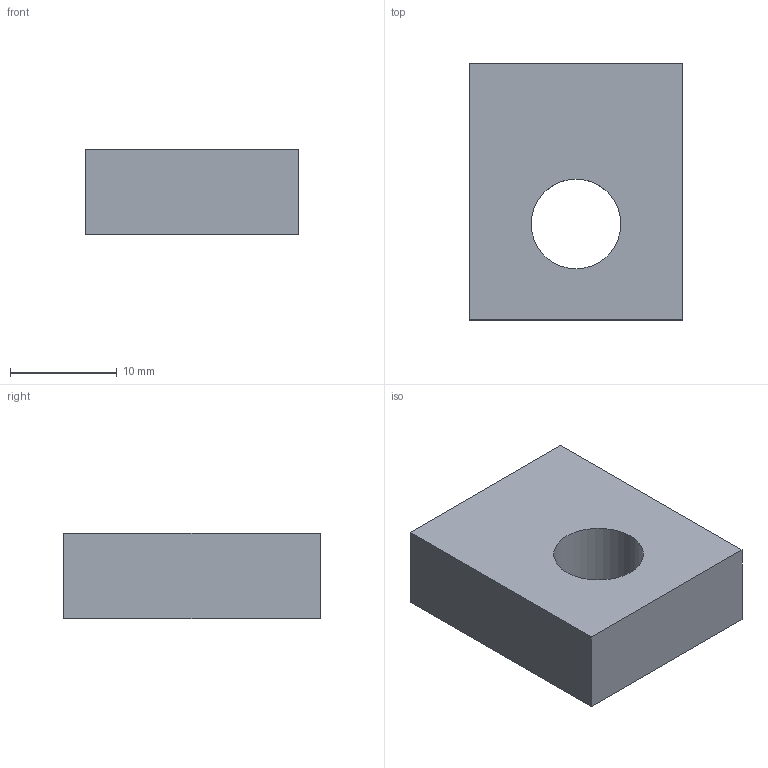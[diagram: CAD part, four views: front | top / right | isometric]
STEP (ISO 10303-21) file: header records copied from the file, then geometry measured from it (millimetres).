
FILE_DESCRIPTION(('Open CASCADE Model'),'2;1');
FILE_NAME('Open CASCADE Shape Model','2026-10-04T01:02:27',('Author'),( 'Open CASCADE'),'Open CASCADE STEP processor 8.0','Open CASCADE 8.0' ,'Unknown');
FILE_SCHEMA(('AUTOMOTIVE_DESIGN { 1 0 10303 214 1 1 1 1 }'));
Length unit declared in the file: millimetre
Products named in the file (1): Open CASCADE STEP translator 8.0 82
Bounding box: 20 x 24 x 8 mm (x, y, z)
Volume: 3396.7 mm3; surface area: 1764.3 mm2
Topology: 1 solids, 1 shells, 7 faces, 15 edges, 10 vertices
Faces by surface type: plane 6, cylinder 1
Full cylindrical faces by diameter (mm): 8.4 x1
Entity records: 400 total; most frequent: CARTESIAN_POINT 63, DIRECTION 63, LINE 41, VECTOR 41, ORIENTED_EDGE 30, PCURVE 30, DEFINITIONAL_REPRESENTATION 30, EDGE_CURVE 15
